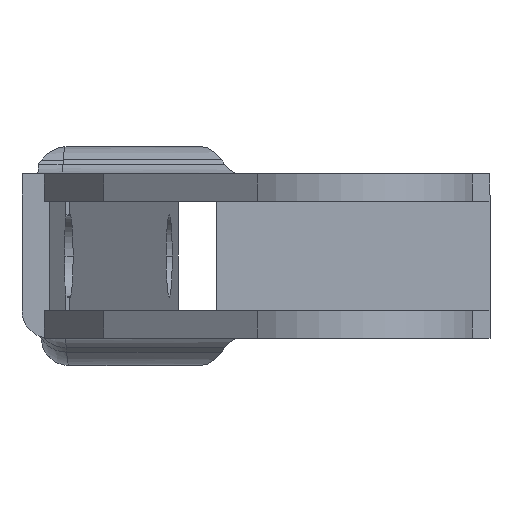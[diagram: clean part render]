
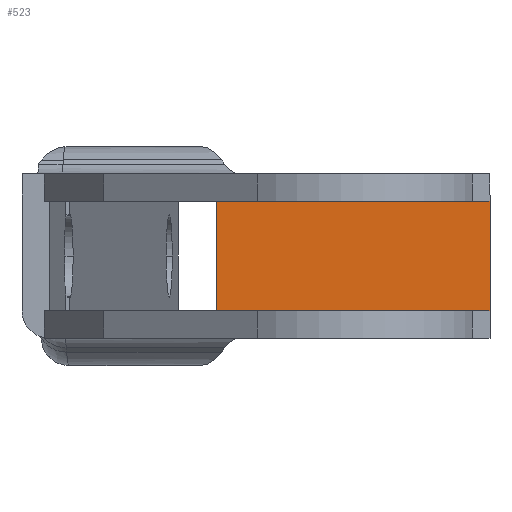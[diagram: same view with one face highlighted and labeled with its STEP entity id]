
A CAD part, front view. The second image highlights one B-rep face of the part: STEP entity #523.
In plain terms, the highlighted planar face has unit normal (0, -1, 0).
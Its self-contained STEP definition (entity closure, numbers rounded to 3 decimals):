
#215=CARTESIAN_POINT('Vertex',(-20.,0.,4.)) ;
#218=CARTESIAN_POINT('Line Origine',(-10.,0.,4.)) ;
#222=CARTESIAN_POINT('Vertex',(0.,0.,4.)) ;
#259=CARTESIAN_POINT('Vertex',(-20.,0.,-4.)) ;
#289=CARTESIAN_POINT('Vertex',(0.,0.,-4.)) ;
#292=CARTESIAN_POINT('Line Origine',(-10.,0.,-4.)) ;
#369=CARTESIAN_POINT('Line Origine',(-20.,0.,0.)) ;
#410=CARTESIAN_POINT('Line Origine',(0.,0.,0.)) ;
#512=CARTESIAN_POINT('Axis2P3D Location',(0.,0.,0.)) ;
#219=DIRECTION('Vector Direction',(1.,0.,0.)) ;
#293=DIRECTION('Vector Direction',(-1.,0.,0.)) ;
#370=DIRECTION('Vector Direction',(0.,0.,-1.)) ;
#411=DIRECTION('Vector Direction',(0.,0.,1.)) ;
#513=DIRECTION('Axis2P3D Direction',(0.,1.,0.)) ;
#514=DIRECTION('Axis2P3D XDirection',(0.,0.,1.)) ;
#515=AXIS2_PLACEMENT_3D('Plane Axis2P3D',#512,#513,#514) ;
#518=ORIENTED_EDGE('',*,*,#373,.T.) ;
#519=ORIENTED_EDGE('',*,*,#296,.T.) ;
#520=ORIENTED_EDGE('',*,*,#414,.T.) ;
#521=ORIENTED_EDGE('',*,*,#224,.T.) ;
#220=VECTOR('Line Direction',#219,1.) ;
#294=VECTOR('Line Direction',#293,1.) ;
#371=VECTOR('Line Direction',#370,1.) ;
#412=VECTOR('Line Direction',#411,1.) ;
#523=ADVANCED_FACE('',(#522),#516,.F.) ;
#224=EDGE_CURVE('',#223,#216,#221,.F.) ;
#296=EDGE_CURVE('',#260,#290,#295,.F.) ;
#373=EDGE_CURVE('',#216,#260,#372,.T.) ;
#414=EDGE_CURVE('',#290,#223,#413,.T.) ;
#517=EDGE_LOOP('',(#518,#519,#520,#521)) ;
#522=FACE_OUTER_BOUND('',#517,.T.) ;
#221=LINE('Line',#218,#220) ;
#295=LINE('Line',#292,#294) ;
#372=LINE('Line',#369,#371) ;
#413=LINE('Line',#410,#412) ;
#516=PLANE('Plane',#515) ;
#216=VERTEX_POINT('',#215) ;
#223=VERTEX_POINT('',#222) ;
#260=VERTEX_POINT('',#259) ;
#290=VERTEX_POINT('',#289) ;
